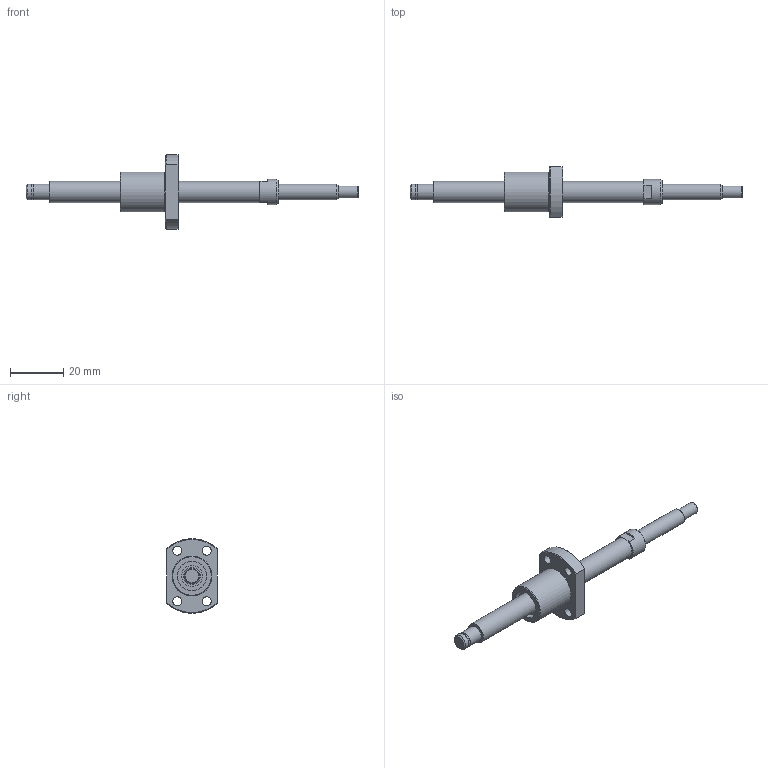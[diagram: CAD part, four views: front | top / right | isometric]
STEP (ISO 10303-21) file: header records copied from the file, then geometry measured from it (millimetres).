
FILE_DESCRIPTION(/* description */ ('STEP AP203'),/* implementation_level */ '2;1');
FILE_NAME(/* name */ 'BNK0802-3RRG0+125LC5Y(48.5)',/* time_stamp */ '2024-07-09T08:46:56+02:00',/* author */ ('License CC BY-ND 4.0'),/* organization */ ('CADENAS'),/* preprocessor_version */ 'ST-DEVELOPER v19.3',/* originating_system */ 'PARTsolutions',/* authorisation */ ' ');
FILE_SCHEMA (('CONFIG_CONTROL_DESIGN'));
Length unit declared in the file: millimetre
Products named in the file (3): BNK0802-3RRG0+125LC5Y(48.5); BNK 0802-3RRG0+125LC5Y Shaft; BNK 0802-3RRG0+125LC5YRR Nut
Assembly tree (2 placements, depth 2):
  BNK0802-3RRG0+125LC5Y(48.5)
    BNK 0802-3RRG0+125LC5Y Shaft
    BNK 0802-3RRG0+125LC5YRR Nut
Bounding box: 125 x 19 x 27.9 mm (x, y, z)
Volume: 9413.3 mm3; surface area: 5861.6 mm2
Topology: 2 solids, 2 shells, 50 faces, 101 edges, 64 vertices
Faces by surface type: plane 21, cylinder 18, cone 9, torus 2
Full cylindrical faces by diameter (mm): 3.4 x4, 4.5 x1, 5.7 x1, 6 x3, 8 x2, 9.5 x1, 11 x2, 14 x1, 15 x1
Entity records: 1295 total; most frequent: DIRECTION 226, CARTESIAN_POINT 217, ORIENTED_EDGE 154, AXIS2_PLACEMENT_3D 104, EDGE_LOOP 92, FACE_BOUND 92, EDGE_CURVE 77, VERTEX_POINT 63
